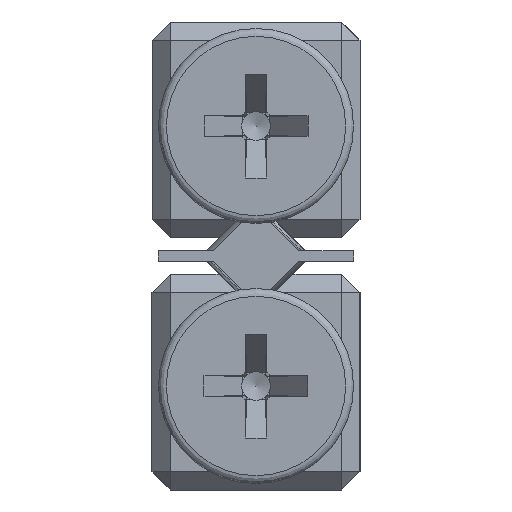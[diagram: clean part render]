
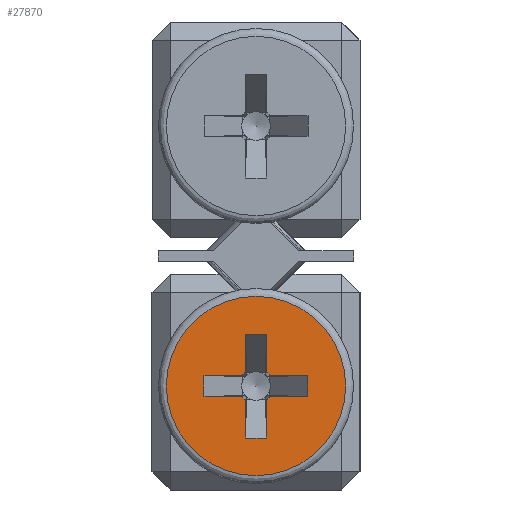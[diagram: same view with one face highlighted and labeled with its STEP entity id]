
A CAD part, left-side view. The second image highlights one B-rep face of the part: STEP entity #27870.
In plain terms, the highlighted planar face has unit normal (-1, 0, 0).
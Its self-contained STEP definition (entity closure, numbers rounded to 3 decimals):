
#3 = LINE ( 'NONE', #30143, #5453 ) ;
#85 = CARTESIAN_POINT ( 'NONE',  ( -139.5, 0.4, 6. ) ) ;
#882 = CARTESIAN_POINT ( 'NONE',  ( -139.5, -0.4, 3.452 ) ) ;
#957 = ORIENTED_EDGE ( 'NONE', *, *, #26602, .T. ) ;
#1326 = EDGE_CURVE ( 'NONE', #5291, #5291, #15533, .T. ) ;
#1578 = CARTESIAN_POINT ( 'NONE',  ( -139.5, 0., 4. ) ) ;
#1924 = CARTESIAN_POINT ( 'NONE',  ( -139.5, -0.548, 3.6 ) ) ;
#2264 = LINE ( 'NONE', #32086, #27032 ) ;
#2609 = CARTESIAN_POINT ( 'NONE',  ( -139.5, 3.75, 4. ) ) ;
#2746 = VERTEX_POINT ( 'NONE', #10416 ) ;
#3002 = CARTESIAN_POINT ( 'NONE',  ( -139.5, 0., 0.55 ) ) ;
#3174 = DIRECTION ( 'NONE',  ( 0., 0., -1. ) ) ;
#3208 = LINE ( 'NONE', #8073, #5684 ) ;
#3416 = ORIENTED_EDGE ( 'NONE', *, *, #8597, .T. ) ;
#3507 = LINE ( 'NONE', #10964, #28088 ) ;
#4189 = EDGE_CURVE ( 'NONE', #22265, #29072, #3, .T. ) ;
#4883 = FACE_OUTER_BOUND ( 'NONE', #16026, .T. ) ;
#5291 = VERTEX_POINT ( 'NONE', #3002 ) ;
#5341 = EDGE_CURVE ( 'NONE', #16108, #19157, #23564, .T. ) ;
#5453 = VECTOR ( 'NONE', #9897, 1000. ) ;
#5566 = EDGE_CURVE ( 'NONE', #25241, #29072, #15448, .T. ) ;
#5684 = VECTOR ( 'NONE', #30734, 1000. ) ;
#6345 = DIRECTION ( 'NONE',  ( -1., 0., 0. ) ) ;
#7085 = CARTESIAN_POINT ( 'NONE',  ( -139.5, 0., 4. ) ) ;
#7253 = VECTOR ( 'NONE', #12448, 1000. ) ;
#7511 = LINE ( 'NONE', #22082, #23789 ) ;
#7729 = CARTESIAN_POINT ( 'NONE',  ( -139.5, -0.4, 6. ) ) ;
#7751 = ORIENTED_EDGE ( 'NONE', *, *, #1326, .T. ) ;
#7771 = CARTESIAN_POINT ( 'NONE',  ( -139.5, 2., 4.4 ) ) ;
#8073 = CARTESIAN_POINT ( 'NONE',  ( -139.5, 0.4, 2. ) ) ;
#8240 = LINE ( 'NONE', #21009, #13533 ) ;
#8539 = LINE ( 'NONE', #13066, #13870 ) ;
#8597 = EDGE_CURVE ( 'NONE', #16108, #26886, #3507, .T. ) ;
#9445 = EDGE_CURVE ( 'NONE', #24432, #19157, #20486, .T. ) ;
#9523 = VERTEX_POINT ( 'NONE', #18241 ) ;
#9691 = DIRECTION ( 'NONE',  ( 0., 0., -1. ) ) ;
#9860 = DIRECTION ( 'NONE',  ( 0., 0., 1. ) ) ;
#9897 = DIRECTION ( 'NONE',  ( 0., 1., 0. ) ) ;
#10211 = FACE_BOUND ( 'NONE', #31150, .T. ) ;
#10416 = CARTESIAN_POINT ( 'NONE',  ( -139.5, 0.548, 3.6 ) ) ;
#10531 = VERTEX_POINT ( 'NONE', #85 ) ;
#10964 = CARTESIAN_POINT ( 'NONE',  ( -139.5, 2., 4.4 ) ) ;
#11172 = CARTESIAN_POINT ( 'NONE',  ( -139.5, 2., 3.6 ) ) ;
#11684 = ORIENTED_EDGE ( 'NONE', *, *, #5341, .F. ) ;
#11783 = DIRECTION ( 'NONE',  ( -1., 0., 0. ) ) ;
#11889 = VECTOR ( 'NONE', #9691, 1000. ) ;
#11961 = ORIENTED_EDGE ( 'NONE', *, *, #21678, .F. ) ;
#12000 = DIRECTION ( 'NONE',  ( 0., 0., 1. ) ) ;
#12200 = CIRCLE ( 'NONE', #30320, 0.678 ) ;
#12285 = LINE ( 'NONE', #14547, #11889 ) ;
#12434 = ORIENTED_EDGE ( 'NONE', *, *, #20791, .T. ) ;
#12448 = DIRECTION ( 'NONE',  ( 0., 1., 0. ) ) ;
#12486 = CARTESIAN_POINT ( 'NONE',  ( -139.5, -2., 4.4 ) ) ;
#12765 = CARTESIAN_POINT ( 'NONE',  ( -139.5, 0., 4. ) ) ;
#13066 = CARTESIAN_POINT ( 'NONE',  ( -139.5, -2., 3.6 ) ) ;
#13533 = VECTOR ( 'NONE', #20370, 1000. ) ;
#13539 = DIRECTION ( 'NONE',  ( 0., 0., 1. ) ) ;
#13617 = DIRECTION ( 'NONE',  ( 0., 0., -1. ) ) ;
#13870 = VECTOR ( 'NONE', #13539, 1000. ) ;
#13999 = DIRECTION ( 'NONE',  ( -1., 0., 0. ) ) ;
#14285 = AXIS2_PLACEMENT_3D ( 'NONE', #12765, #27517, #9860 ) ;
#14547 = CARTESIAN_POINT ( 'NONE',  ( -139.5, 2., 4.4 ) ) ;
#14775 = DIRECTION ( 'NONE',  ( 0., -1., 0. ) ) ;
#15344 = ORIENTED_EDGE ( 'NONE', *, *, #23523, .T. ) ;
#15398 = PLANE ( 'NONE',  #24379 ) ;
#15448 = CIRCLE ( 'NONE', #16484, 0.678 ) ;
#15533 = CIRCLE ( 'NONE', #20705, 3.45 ) ;
#16026 = EDGE_LOOP ( 'NONE', ( #7751 ) ) ;
#16063 = CARTESIAN_POINT ( 'NONE',  ( -139.5, 0., 4. ) ) ;
#16108 = VERTEX_POINT ( 'NONE', #24662 ) ;
#16318 = DIRECTION ( 'NONE',  ( 0., 0., 1. ) ) ;
#16410 = VERTEX_POINT ( 'NONE', #7771 ) ;
#16484 = AXIS2_PLACEMENT_3D ( 'NONE', #7085, #16952, #26822 ) ;
#16645 = CARTESIAN_POINT ( 'NONE',  ( -139.5, -0.4, 4.548 ) ) ;
#16899 = CARTESIAN_POINT ( 'NONE',  ( -139.5, -2., 3.6 ) ) ;
#16952 = DIRECTION ( 'NONE',  ( -1., 0., 0. ) ) ;
#17511 = DIRECTION ( 'NONE',  ( 0., 0., -1. ) ) ;
#17835 = DIRECTION ( 'NONE',  ( 1., 0., 0. ) ) ;
#17863 = CARTESIAN_POINT ( 'NONE',  ( -139.5, -0.4, 6. ) ) ;
#18241 = CARTESIAN_POINT ( 'NONE',  ( -139.5, 0.4, 3.452 ) ) ;
#18258 = VERTEX_POINT ( 'NONE', #30186 ) ;
#18968 = ORIENTED_EDGE ( 'NONE', *, *, #19110, .F. ) ;
#19110 = EDGE_CURVE ( 'NONE', #2746, #9523, #12200, .T. ) ;
#19157 = VERTEX_POINT ( 'NONE', #16645 ) ;
#19484 = CARTESIAN_POINT ( 'NONE',  ( -139.5, 2., 4.4 ) ) ;
#20184 = CIRCLE ( 'NONE', #20689, 0.678 ) ;
#20370 = DIRECTION ( 'NONE',  ( 0., 0., 1. ) ) ;
#20374 = ORIENTED_EDGE ( 'NONE', *, *, #28308, .T. ) ;
#20486 = LINE ( 'NONE', #7729, #22937 ) ;
#20689 = AXIS2_PLACEMENT_3D ( 'NONE', #21122, #13999, #28895 ) ;
#20705 = AXIS2_PLACEMENT_3D ( 'NONE', #16063, #6345, #13617 ) ;
#20791 = EDGE_CURVE ( 'NONE', #16410, #25169, #26595, .T. ) ;
#21009 = CARTESIAN_POINT ( 'NONE',  ( -139.5, 0.4, 2. ) ) ;
#21122 = CARTESIAN_POINT ( 'NONE',  ( -139.5, 0., 4. ) ) ;
#21513 = CARTESIAN_POINT ( 'NONE',  ( -139.5, 0.4, 2. ) ) ;
#21653 = ORIENTED_EDGE ( 'NONE', *, *, #23546, .F. ) ;
#21678 = EDGE_CURVE ( 'NONE', #22265, #26886, #8539, .T. ) ;
#21848 = CARTESIAN_POINT ( 'NONE',  ( -139.5, -2., 3.6 ) ) ;
#22082 = CARTESIAN_POINT ( 'NONE',  ( -139.5, -0.4, 6. ) ) ;
#22265 = VERTEX_POINT ( 'NONE', #16899 ) ;
#22712 = DIRECTION ( 'NONE',  ( 0., 0., -1. ) ) ;
#22762 = CARTESIAN_POINT ( 'NONE',  ( -139.5, 0.548, 4.4 ) ) ;
#22937 = VECTOR ( 'NONE', #3174, 1000. ) ;
#23116 = ORIENTED_EDGE ( 'NONE', *, *, #29822, .T. ) ;
#23523 = EDGE_CURVE ( 'NONE', #2746, #28056, #29460, .T. ) ;
#23546 = EDGE_CURVE ( 'NONE', #16410, #28056, #12285, .T. ) ;
#23564 = CIRCLE ( 'NONE', #14285, 0.678 ) ;
#23721 = EDGE_CURVE ( 'NONE', #30401, #18258, #3208, .T. ) ;
#23755 = ORIENTED_EDGE ( 'NONE', *, *, #26486, .F. ) ;
#23789 = VECTOR ( 'NONE', #22712, 1000. ) ;
#24136 = EDGE_CURVE ( 'NONE', #31118, #25169, #20184, .T. ) ;
#24379 = AXIS2_PLACEMENT_3D ( 'NONE', #2609, #17835, #17511 ) ;
#24432 = VERTEX_POINT ( 'NONE', #27749 ) ;
#24662 = CARTESIAN_POINT ( 'NONE',  ( -139.5, -0.548, 4.4 ) ) ;
#24986 = LINE ( 'NONE', #17863, #27958 ) ;
#25169 = VERTEX_POINT ( 'NONE', #22762 ) ;
#25241 = VERTEX_POINT ( 'NONE', #882 ) ;
#26486 = EDGE_CURVE ( 'NONE', #24432, #10531, #24986, .T. ) ;
#26595 = LINE ( 'NONE', #19484, #26742 ) ;
#26602 = EDGE_CURVE ( 'NONE', #25241, #18258, #7511, .T. ) ;
#26742 = VECTOR ( 'NONE', #14775, 1000. ) ;
#26822 = DIRECTION ( 'NONE',  ( 0., 0., 1. ) ) ;
#26886 = VERTEX_POINT ( 'NONE', #12486 ) ;
#27032 = VECTOR ( 'NONE', #12000, 1000. ) ;
#27171 = ORIENTED_EDGE ( 'NONE', *, *, #4189, .T. ) ;
#27517 = DIRECTION ( 'NONE',  ( -1., 0., 0. ) ) ;
#27743 = DIRECTION ( 'NONE',  ( 0., 1., 0. ) ) ;
#27749 = CARTESIAN_POINT ( 'NONE',  ( -139.5, -0.4, 6. ) ) ;
#27836 = ORIENTED_EDGE ( 'NONE', *, *, #24136, .F. ) ;
#27870 = ADVANCED_FACE ( 'NONE', ( #4883, #10211 ), #15398, .F. ) ;
#27900 = ORIENTED_EDGE ( 'NONE', *, *, #9445, .T. ) ;
#27958 = VECTOR ( 'NONE', #27743, 1000. ) ;
#27979 = DIRECTION ( 'NONE',  ( 0., -1., 0. ) ) ;
#28056 = VERTEX_POINT ( 'NONE', #11172 ) ;
#28088 = VECTOR ( 'NONE', #27979, 1000. ) ;
#28308 = EDGE_CURVE ( 'NONE', #31118, #10531, #8240, .T. ) ;
#28895 = DIRECTION ( 'NONE',  ( 0., 0., 1. ) ) ;
#29072 = VERTEX_POINT ( 'NONE', #1924 ) ;
#29460 = LINE ( 'NONE', #21848, #7253 ) ;
#29503 = CARTESIAN_POINT ( 'NONE',  ( -139.5, 0.4, 4.548 ) ) ;
#29822 = EDGE_CURVE ( 'NONE', #30401, #9523, #2264, .T. ) ;
#30143 = CARTESIAN_POINT ( 'NONE',  ( -139.5, -2., 3.6 ) ) ;
#30186 = CARTESIAN_POINT ( 'NONE',  ( -139.5, -0.4, 2. ) ) ;
#30320 = AXIS2_PLACEMENT_3D ( 'NONE', #1578, #11783, #16318 ) ;
#30401 = VERTEX_POINT ( 'NONE', #21513 ) ;
#30421 = ORIENTED_EDGE ( 'NONE', *, *, #5566, .F. ) ;
#30734 = DIRECTION ( 'NONE',  ( 0., -1., 0. ) ) ;
#31118 = VERTEX_POINT ( 'NONE', #29503 ) ;
#31150 = EDGE_LOOP ( 'NONE', ( #30421, #957, #31283, #23116, #18968, #15344, #21653, #12434, #27836, #20374, #23755, #27900, #11684, #3416, #11961, #27171 ) ) ;
#31283 = ORIENTED_EDGE ( 'NONE', *, *, #23721, .F. ) ;
#32086 = CARTESIAN_POINT ( 'NONE',  ( -139.5, 0.4, 2. ) ) ;
